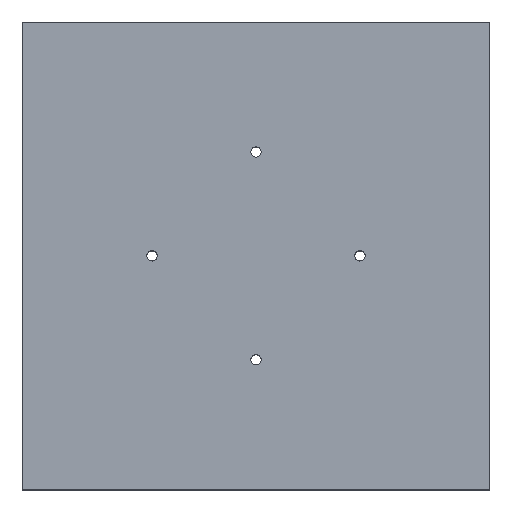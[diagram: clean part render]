
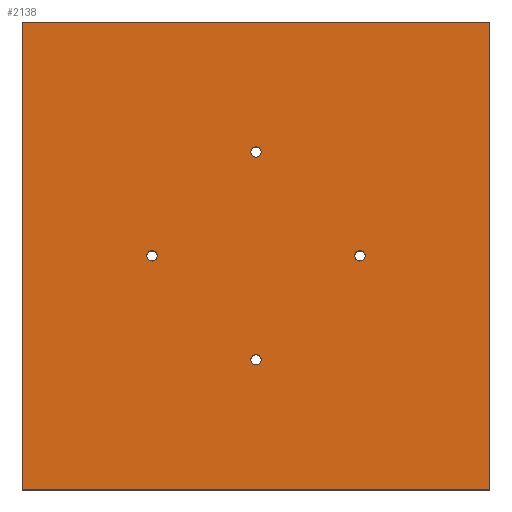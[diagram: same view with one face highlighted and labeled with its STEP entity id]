
A CAD part, top view. The second image highlights one B-rep face of the part: STEP entity #2138.
In plain terms, the highlighted planar face has unit normal (0, 0, 1).
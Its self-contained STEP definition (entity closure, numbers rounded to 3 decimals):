
#19 = CARTESIAN_POINT ( 'NONE',  ( 45., 65., 17.5 ) ) ;
#65 = DIRECTION ( 'NONE',  ( 0., 1., 0. ) ) ;
#96 = DIRECTION ( 'NONE',  ( 0., 0., 1. ) ) ;
#120 = CIRCLE ( 'NONE', #301, 1. ) ;
#137 = ORIENTED_EDGE ( 'NONE', *, *, #2160, .F. ) ;
#153 = CARTESIAN_POINT ( 'NONE',  ( 90., 0., 17.5 ) ) ;
#170 = DIRECTION ( 'NONE',  ( 1., 0., 0. ) ) ;
#222 = ORIENTED_EDGE ( 'NONE', *, *, #2217, .T. ) ;
#236 = DIRECTION ( 'NONE',  ( 0., -1., 0. ) ) ;
#278 = DIRECTION ( 'NONE',  ( -1., 0., 0. ) ) ;
#286 = FACE_BOUND ( 'NONE', #1940, .T. ) ;
#301 = AXIS2_PLACEMENT_3D ( 'NONE', #1603, #2075, #901 ) ;
#316 = VERTEX_POINT ( 'NONE', #642 ) ;
#317 = DIRECTION ( 'NONE',  ( 1., 0., 0. ) ) ;
#320 = DIRECTION ( 'NONE',  ( 0., 0., 1. ) ) ;
#407 = CIRCLE ( 'NONE', #1768, 1. ) ;
#452 = FACE_OUTER_BOUND ( 'NONE', #1019, .T. ) ;
#471 = CARTESIAN_POINT ( 'NONE',  ( 65., 45., 17.5 ) ) ;
#478 = CIRCLE ( 'NONE', #1209, 1. ) ;
#492 = CARTESIAN_POINT ( 'NONE',  ( 90., 90., 17.5 ) ) ;
#506 = CARTESIAN_POINT ( 'NONE',  ( 45., 25., 17.5 ) ) ;
#554 = CIRCLE ( 'NONE', #2141, 1. ) ;
#559 = VERTEX_POINT ( 'NONE', #1390 ) ;
#565 = EDGE_CURVE ( 'NONE', #1714, #894, #1006, .T. ) ;
#581 = ORIENTED_EDGE ( 'NONE', *, *, #1076, .F. ) ;
#603 = DIRECTION ( 'NONE',  ( 1., 0., 0. ) ) ;
#608 = VERTEX_POINT ( 'NONE', #1764 ) ;
#610 = VERTEX_POINT ( 'NONE', #1595 ) ;
#627 = DIRECTION ( 'NONE',  ( 1., 0., 0. ) ) ;
#642 = CARTESIAN_POINT ( 'NONE',  ( 0., 90., 17.5 ) ) ;
#686 = VECTOR ( 'NONE', #1794, 1000. ) ;
#703 = VERTEX_POINT ( 'NONE', #153 ) ;
#715 = ORIENTED_EDGE ( 'NONE', *, *, #1998, .F. ) ;
#779 = CIRCLE ( 'NONE', #999, 1. ) ;
#797 = VERTEX_POINT ( 'NONE', #1347 ) ;
#806 = DIRECTION ( 'NONE',  ( 0., 0., 1. ) ) ;
#831 = CARTESIAN_POINT ( 'NONE',  ( 0., 0., 17.5 ) ) ;
#859 = DIRECTION ( 'NONE',  ( 1., 0., 0. ) ) ;
#888 = EDGE_CURVE ( 'NONE', #703, #991, #1107, .T. ) ;
#894 = VERTEX_POINT ( 'NONE', #2153 ) ;
#900 = AXIS2_PLACEMENT_3D ( 'NONE', #1406, #320, #1074 ) ;
#901 = DIRECTION ( 'NONE',  ( 1., 0., 0. ) ) ;
#906 = EDGE_LOOP ( 'NONE', ( #917, #137 ) ) ;
#910 = CARTESIAN_POINT ( 'NONE',  ( 24., 45., 17.5 ) ) ;
#917 = ORIENTED_EDGE ( 'NONE', *, *, #565, .F. ) ;
#957 = CARTESIAN_POINT ( 'NONE',  ( 90., 0., 17.5 ) ) ;
#959 = VECTOR ( 'NONE', #65, 1000. ) ;
#991 = VERTEX_POINT ( 'NONE', #492 ) ;
#992 = AXIS2_PLACEMENT_3D ( 'NONE', #1655, #96, #1834 ) ;
#999 = AXIS2_PLACEMENT_3D ( 'NONE', #19, #1235, #317 ) ;
#1006 = CIRCLE ( 'NONE', #900, 1. ) ;
#1014 = EDGE_LOOP ( 'NONE', ( #1194, #1960 ) ) ;
#1019 = EDGE_LOOP ( 'NONE', ( #1419, #222, #1225, #1259 ) ) ;
#1074 = DIRECTION ( 'NONE',  ( 1., 0., 0. ) ) ;
#1076 = EDGE_CURVE ( 'NONE', #1866, #1738, #1445, .T. ) ;
#1089 = ORIENTED_EDGE ( 'NONE', *, *, #1119, .F. ) ;
#1101 = LINE ( 'NONE', #1460, #686 ) ;
#1107 = LINE ( 'NONE', #957, #959 ) ;
#1114 = LINE ( 'NONE', #1613, #1873 ) ;
#1119 = EDGE_CURVE ( 'NONE', #608, #559, #120, .T. ) ;
#1123 = PLANE ( 'NONE',  #1807 ) ;
#1126 = EDGE_CURVE ( 'NONE', #1738, #1866, #779, .T. ) ;
#1159 = FACE_BOUND ( 'NONE', #906, .T. ) ;
#1166 = CARTESIAN_POINT ( 'NONE',  ( 0., 0., 17.5 ) ) ;
#1194 = ORIENTED_EDGE ( 'NONE', *, *, #2192, .F. ) ;
#1209 = AXIS2_PLACEMENT_3D ( 'NONE', #506, #1722, #859 ) ;
#1225 = ORIENTED_EDGE ( 'NONE', *, *, #888, .T. ) ;
#1235 = DIRECTION ( 'NONE',  ( 0., 0., 1. ) ) ;
#1259 = ORIENTED_EDGE ( 'NONE', *, *, #1701, .T. ) ;
#1285 = CARTESIAN_POINT ( 'NONE',  ( 65., 45., 17.5 ) ) ;
#1292 = VERTEX_POINT ( 'NONE', #1615 ) ;
#1308 = EDGE_CURVE ( 'NONE', #797, #610, #554, .T. ) ;
#1347 = CARTESIAN_POINT ( 'NONE',  ( 66., 45., 17.5 ) ) ;
#1387 = ORIENTED_EDGE ( 'NONE', *, *, #1126, .F. ) ;
#1390 = CARTESIAN_POINT ( 'NONE',  ( 44., 25., 17.5 ) ) ;
#1406 = CARTESIAN_POINT ( 'NONE',  ( 25., 45., 17.5 ) ) ;
#1419 = ORIENTED_EDGE ( 'NONE', *, *, #1723, .T. ) ;
#1445 = CIRCLE ( 'NONE', #2176, 1. ) ;
#1460 = CARTESIAN_POINT ( 'NONE',  ( 0., 90., 17.5 ) ) ;
#1595 = CARTESIAN_POINT ( 'NONE',  ( 64., 45., 17.5 ) ) ;
#1603 = CARTESIAN_POINT ( 'NONE',  ( 45., 25., 17.5 ) ) ;
#1613 = CARTESIAN_POINT ( 'NONE',  ( 0., 0., 17.5 ) ) ;
#1615 = CARTESIAN_POINT ( 'NONE',  ( 0., 0., 17.5 ) ) ;
#1628 = CIRCLE ( 'NONE', #992, 1. ) ;
#1655 = CARTESIAN_POINT ( 'NONE',  ( 25., 45., 17.5 ) ) ;
#1687 = CARTESIAN_POINT ( 'NONE',  ( 45., 65., 17.5 ) ) ;
#1701 = EDGE_CURVE ( 'NONE', #991, #316, #1101, .T. ) ;
#1714 = VERTEX_POINT ( 'NONE', #910 ) ;
#1722 = DIRECTION ( 'NONE',  ( 0., 0., 1. ) ) ;
#1723 = EDGE_CURVE ( 'NONE', #316, #1292, #1114, .T. ) ;
#1738 = VERTEX_POINT ( 'NONE', #2015 ) ;
#1746 = CARTESIAN_POINT ( 'NONE',  ( 44., 65., 17.5 ) ) ;
#1764 = CARTESIAN_POINT ( 'NONE',  ( 46., 25., 17.5 ) ) ;
#1768 = AXIS2_PLACEMENT_3D ( 'NONE', #471, #1916, #1877 ) ;
#1794 = DIRECTION ( 'NONE',  ( -1., 0., 0. ) ) ;
#1807 = AXIS2_PLACEMENT_3D ( 'NONE', #1166, #2188, #278 ) ;
#1834 = DIRECTION ( 'NONE',  ( 1., 0., 0. ) ) ;
#1856 = EDGE_LOOP ( 'NONE', ( #715, #1089 ) ) ;
#1859 = FACE_BOUND ( 'NONE', #1014, .T. ) ;
#1866 = VERTEX_POINT ( 'NONE', #1746 ) ;
#1873 = VECTOR ( 'NONE', #236, 1000. ) ;
#1877 = DIRECTION ( 'NONE',  ( 1., 0., 0. ) ) ;
#1888 = LINE ( 'NONE', #831, #2089 ) ;
#1916 = DIRECTION ( 'NONE',  ( 0., 0., 1. ) ) ;
#1940 = EDGE_LOOP ( 'NONE', ( #581, #1387 ) ) ;
#1960 = ORIENTED_EDGE ( 'NONE', *, *, #1308, .F. ) ;
#1989 = DIRECTION ( 'NONE',  ( 0., 0., 1. ) ) ;
#1998 = EDGE_CURVE ( 'NONE', #559, #608, #478, .T. ) ;
#2015 = CARTESIAN_POINT ( 'NONE',  ( 46., 65., 17.5 ) ) ;
#2075 = DIRECTION ( 'NONE',  ( 0., 0., 1. ) ) ;
#2089 = VECTOR ( 'NONE', #170, 1000. ) ;
#2138 = ADVANCED_FACE ( 'NONE', ( #452, #286, #1159, #1859, #2179 ), #1123, .F. ) ;
#2141 = AXIS2_PLACEMENT_3D ( 'NONE', #1285, #1989, #603 ) ;
#2153 = CARTESIAN_POINT ( 'NONE',  ( 26., 45., 17.5 ) ) ;
#2160 = EDGE_CURVE ( 'NONE', #894, #1714, #1628, .T. ) ;
#2176 = AXIS2_PLACEMENT_3D ( 'NONE', #1687, #806, #627 ) ;
#2179 = FACE_BOUND ( 'NONE', #1856, .T. ) ;
#2188 = DIRECTION ( 'NONE',  ( 0., 0., -1. ) ) ;
#2192 = EDGE_CURVE ( 'NONE', #610, #797, #407, .T. ) ;
#2217 = EDGE_CURVE ( 'NONE', #1292, #703, #1888, .T. ) ;
